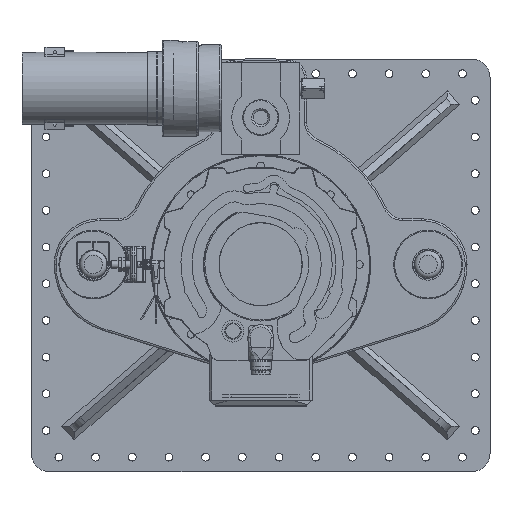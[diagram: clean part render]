
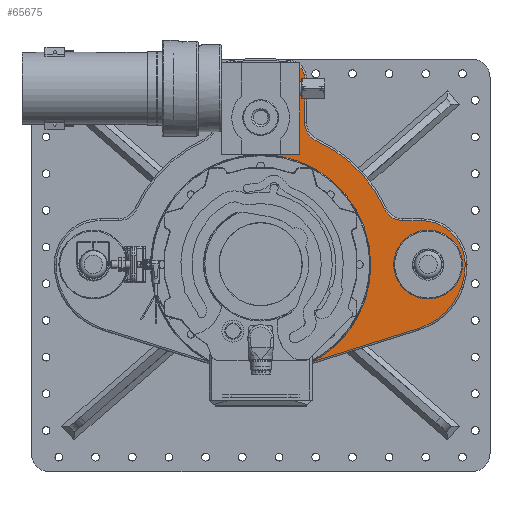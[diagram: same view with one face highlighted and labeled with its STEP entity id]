
A CAD part, top view. The second image highlights one B-rep face of the part: STEP entity #65675.
In plain terms, the highlighted planar face has unit normal (0, 0, 1).
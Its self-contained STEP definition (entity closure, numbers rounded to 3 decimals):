
#3302=FACE_BOUND('',#12066,.T.);
#4750=PLANE('',#72344);
#8090=FACE_OUTER_BOUND('',#12065,.T.);
#12065=EDGE_LOOP('',(#57145,#57146,#57147,#57148,#57149,#57150,#57151,#57152,
#57153,#57154,#57155,#57156,#57157,#57158));
#12066=EDGE_LOOP('',(#57159));
#14527=LINE('',#107511,#19043);
#14529=LINE('',#107535,#19045);
#14532=LINE('',#107582,#19048);
#16533=LINE('',#121809,#21049);
#16534=LINE('',#121811,#21050);
#19043=VECTOR('',#82012,10.);
#19045=VECTOR('',#82042,10.);
#19048=VECTOR('',#82115,10.);
#21049=VECTOR('',#89738,10.);
#21050=VECTOR('',#89739,10.);
#21856=CIRCLE('',#66849,120.);
#21993=CIRCLE('',#67079,120.);
#23211=CIRCLE('',#69351,37.5);
#23303=CIRCLE('',#69479,73.);
#23305=CIRCLE('',#69482,48.);
#23308=CIRCLE('',#69487,22.);
#23311=CIRCLE('',#69491,148.);
#23314=CIRCLE('',#69495,22.);
#23320=CIRCLE('',#69503,18.);
#24654=CIRCLE('',#72345,2.);
#25656=VERTEX_POINT('',#98128);
#25660=VERTEX_POINT('',#98136);
#25662=VERTEX_POINT('',#98140);
#27962=VERTEX_POINT('',#107214);
#28069=VERTEX_POINT('',#107498);
#28070=VERTEX_POINT('',#107500);
#28071=VERTEX_POINT('',#107504);
#28073=VERTEX_POINT('',#107509);
#28075=VERTEX_POINT('',#107515);
#28077=VERTEX_POINT('',#107521);
#28079=VERTEX_POINT('',#107527);
#28081=VERTEX_POINT('',#107533);
#28085=VERTEX_POINT('',#107543);
#30462=VERTEX_POINT('',#121808);
#30463=VERTEX_POINT('',#121810);
#32071=EDGE_CURVE('',#25656,#25662,#21856,.T.);
#32350=EDGE_CURVE('',#25660,#25656,#21993,.T.);
#35466=EDGE_CURVE('',#27962,#27962,#23211,.T.);
#35608=EDGE_CURVE('',#28070,#28069,#23303,.T.);
#35610=EDGE_CURVE('',#28071,#28070,#23305,.T.);
#35612=EDGE_CURVE('',#28073,#28071,#14527,.T.);
#35615=EDGE_CURVE('',#28075,#28073,#23308,.T.);
#35618=EDGE_CURVE('',#28077,#28075,#23311,.T.);
#35621=EDGE_CURVE('',#28079,#28077,#23314,.T.);
#35624=EDGE_CURVE('',#28081,#28079,#14529,.T.);
#35629=EDGE_CURVE('',#28085,#28081,#23320,.T.);
#35649=EDGE_CURVE('',#28069,#25662,#14532,.T.);
#39458=EDGE_CURVE('',#30462,#25660,#16533,.T.);
#39459=EDGE_CURVE('',#28085,#30463,#16534,.T.);
#39460=EDGE_CURVE('',#30463,#30462,#24654,.T.);
#57145=ORIENTED_EDGE('',*,*,#39458,.T.);
#57146=ORIENTED_EDGE('',*,*,#32350,.T.);
#57147=ORIENTED_EDGE('',*,*,#32071,.T.);
#57148=ORIENTED_EDGE('',*,*,#35649,.F.);
#57149=ORIENTED_EDGE('',*,*,#35608,.F.);
#57150=ORIENTED_EDGE('',*,*,#35610,.F.);
#57151=ORIENTED_EDGE('',*,*,#35612,.F.);
#57152=ORIENTED_EDGE('',*,*,#35615,.F.);
#57153=ORIENTED_EDGE('',*,*,#35618,.F.);
#57154=ORIENTED_EDGE('',*,*,#35621,.F.);
#57155=ORIENTED_EDGE('',*,*,#35624,.F.);
#57156=ORIENTED_EDGE('',*,*,#35629,.F.);
#57157=ORIENTED_EDGE('',*,*,#39459,.T.);
#57158=ORIENTED_EDGE('',*,*,#39460,.T.);
#57159=ORIENTED_EDGE('',*,*,#35466,.T.);
#65675=ADVANCED_FACE('',(#8090,#3302),#4750,.T.);
#66849=AXIS2_PLACEMENT_3D('',#98142,#74916,#74917);
#67079=AXIS2_PLACEMENT_3D('',#99109,#75444,#75445);
#69351=AXIS2_PLACEMENT_3D('',#107216,#81694,#81695);
#69479=AXIS2_PLACEMENT_3D('',#107502,#82000,#82001);
#69482=AXIS2_PLACEMENT_3D('',#107506,#82006,#82007);
#69487=AXIS2_PLACEMENT_3D('',#107517,#82018,#82019);
#69491=AXIS2_PLACEMENT_3D('',#107523,#82026,#82027);
#69495=AXIS2_PLACEMENT_3D('',#107529,#82034,#82035);
#69503=AXIS2_PLACEMENT_3D('',#107545,#82052,#82053);
#72344=AXIS2_PLACEMENT_3D('',#121807,#89736,#89737);
#72345=AXIS2_PLACEMENT_3D('',#121812,#89740,#89741);
#74916=DIRECTION('center_axis',(0.,0.,
-1.));
#74917=DIRECTION('ref_axis',(-1.,0.,0.));
#75444=DIRECTION('center_axis',(0.,0.,
-1.));
#75445=DIRECTION('ref_axis',(-1.,0.,0.));
#81694=DIRECTION('center_axis',(0.,0.,
-1.));
#81695=DIRECTION('ref_axis',(0.,1.,0.));
#82000=DIRECTION('center_axis',(0.,0.,
-1.));
#82001=DIRECTION('ref_axis',(0.806,-0.592,0.));
#82006=DIRECTION('center_axis',(0.,0.,
-1.));
#82007=DIRECTION('ref_axis',(0.707,0.707,0.));
#82012=DIRECTION('',(1.,0.,0.));
#82018=DIRECTION('center_axis',(0.,0.,
1.));
#82019=DIRECTION('ref_axis',(-0.542,-0.84,0.));
#82026=DIRECTION('center_axis',(0.,0.,
-1.));
#82027=DIRECTION('ref_axis',(0.707,0.707,0.));
#82034=DIRECTION('center_axis',(0.,0.,
1.));
#82035=DIRECTION('ref_axis',(-0.84,-0.542,0.));
#82042=DIRECTION('',(0.,-1.,0.));
#82052=DIRECTION('center_axis',(0.,0.,
-1.));
#82053=DIRECTION('ref_axis',(0.757,0.653,0.));
#82115=DIRECTION('',(-0.954,-0.3,0.));
#89736=DIRECTION('center_axis',(0.,0.,
1.));
#89737=DIRECTION('ref_axis',(-1.,0.,0.));
#89738=DIRECTION('',(-1.,0.,0.));
#89739=DIRECTION('',(0.,-1.,0.));
#89740=DIRECTION('center_axis',(0.,0.,
-1.));
#89741=DIRECTION('ref_axis',(0.707,-0.707,0.));
#98128=CARTESIAN_POINT('',(120.,0.,531.5));
#98136=CARTESIAN_POINT('',(0.,120.,531.5));
#98140=CARTESIAN_POINT('',(56.212,-106.02,531.5));
#98142=CARTESIAN_POINT('Origin',(0.,0.,
531.5));
#99109=CARTESIAN_POINT('Origin',(0.,0.,
531.5));
#107214=CARTESIAN_POINT('',(182.5,-37.5,531.5));
#107216=CARTESIAN_POINT('Origin',(182.5,0.,531.5));
#107498=CARTESIAN_POINT('',(171.9,-69.638,531.5));
#107500=CARTESIAN_POINT('',(223.,0.,531.5));
#107502=CARTESIAN_POINT('Origin',(150.,0.,
531.5));
#107504=CARTESIAN_POINT('',(175.,48.,531.5));
#107506=CARTESIAN_POINT('Origin',(175.,0.,
531.5));
#107509=CARTESIAN_POINT('',(154.919,48.,531.5));
#107511=CARTESIAN_POINT('',(109.687,48.,531.5));
#107515=CARTESIAN_POINT('',(134.871,60.941,531.5));
#107517=CARTESIAN_POINT('Origin',(154.919,70.,531.5));
#107521=CARTESIAN_POINT('',(60.941,134.871,531.5));
#107523=CARTESIAN_POINT('Origin',(0.,0.,
531.5));
#107527=CARTESIAN_POINT('',(48.,154.919,531.5));
#107529=CARTESIAN_POINT('Origin',(70.,154.919,531.5));
#107533=CARTESIAN_POINT('',(48.,202.793,531.5));
#107535=CARTESIAN_POINT('',(48.,49.819,531.5));
#107543=CARTESIAN_POINT('',(42.5,215.745,531.5));
#107545=CARTESIAN_POINT('Origin',(30.,202.793,531.5));
#107582=CARTESIAN_POINT('',(29.421,-114.445,531.5));
#121807=CARTESIAN_POINT('Origin',(0.,-41.784,
531.5));
#121808=CARTESIAN_POINT('',(40.5,120.,531.5));
#121809=CARTESIAN_POINT('',(-21.25,120.,531.5));
#121810=CARTESIAN_POINT('',(42.5,122.,531.5));
#121811=CARTESIAN_POINT('',(42.5,39.108,531.5));
#121812=CARTESIAN_POINT('Origin',(40.5,122.,531.5));
